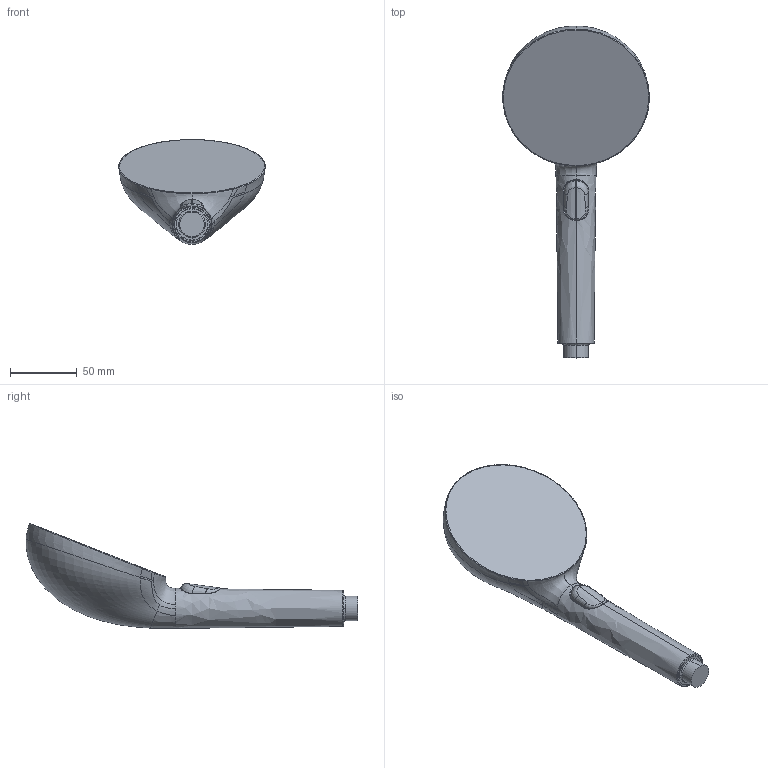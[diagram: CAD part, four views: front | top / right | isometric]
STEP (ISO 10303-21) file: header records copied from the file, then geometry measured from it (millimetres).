
FILE_DESCRIPTION (( 'STEP AP203' ), '1' );
FILE_NAME ('242703(2024)+47330100(2024).STEP', '2024-04-11T07:30:25', ( '' ), ( '' ), 'SwSTEP 2.0', 'SolidWorks 2016', '' );
FILE_SCHEMA (( 'CONFIG_CONTROL_DESIGN' ));
Length unit declared in the file: millimetre
Products named in the file (1): 242703(2024)+47330100(2024)
Bounding box: 109.8 x 248.61 x 78.53 mm (x, y, z)
Volume: 410141.4 mm3; surface area: 40773.2 mm2
Topology: 1 solids, 1 shells, 74 faces, 185 edges, 115 vertices
Faces by surface type: bspline 61, cone 6, plane 5, cylinder 2
Entity records: 17156 total; most frequent: CARTESIAN_POINT 15805, ORIENTED_EDGE 370, EDGE_CURVE 185, B_SPLINE_CURVE_WITH_KNOTS 133, VERTEX_POINT 115, DIRECTION 95, EDGE_LOOP 76, FACE_OUTER_BOUND 74
